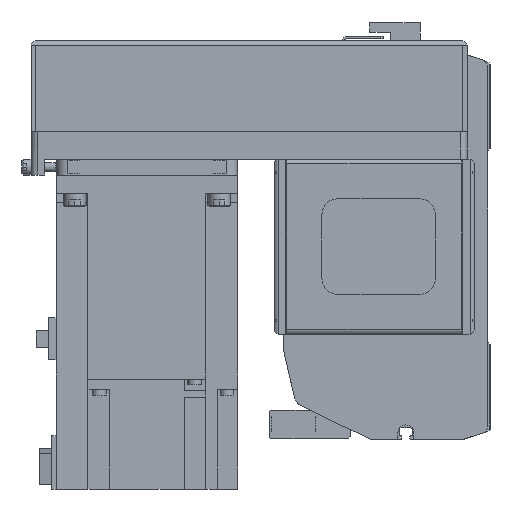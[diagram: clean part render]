
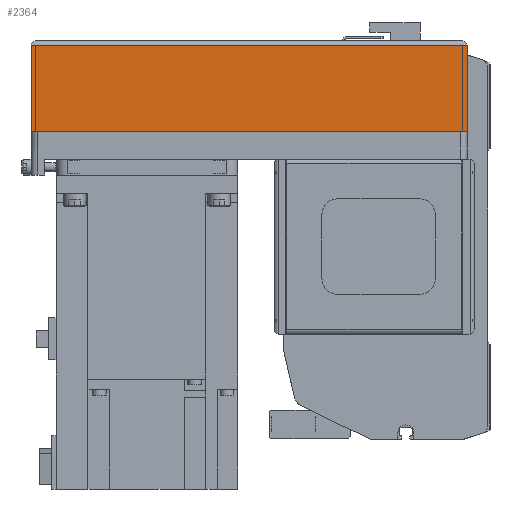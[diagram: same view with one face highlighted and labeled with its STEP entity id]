
A CAD part, left-side view. The second image highlights one B-rep face of the part: STEP entity #2364.
In plain terms, the highlighted planar face has unit normal (-1, 0, 0) as drawn and (0, 1, 0) by its records, which use the part's own axes.
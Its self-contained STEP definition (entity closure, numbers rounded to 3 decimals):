
#2364 = ADVANCED_FACE( '', ( #5300 ), #5301, .T. );
#5300 = FACE_OUTER_BOUND( '', #8794, .T. );
#5301 = PLANE( '', #8795 );
#8794 = EDGE_LOOP( '', ( #15343, #15344, #15345, #15346 ) );
#8795 = AXIS2_PLACEMENT_3D( '', #15347, #15348, #15349 );
#15343 = ORIENTED_EDGE( '', *, *, #22277, .F. );
#15344 = ORIENTED_EDGE( '', *, *, #22114, .F. );
#15345 = ORIENTED_EDGE( '', *, *, #20688, .T. );
#15346 = ORIENTED_EDGE( '', *, *, #19896, .T. );
#15347 = CARTESIAN_POINT( '', ( -192., 40., -50. ) );
#15348 = DIRECTION( '', ( 0., 1., 0. ) );
#15349 = DIRECTION( '', ( 0., 0., 1. ) );
#19896 = EDGE_CURVE( '', #23661, #23659, #23662, .T. );
#20688 = EDGE_CURVE( '', #25034, #23661, #25038, .T. );
#22114 = EDGE_CURVE( '', #25034, #27232, #27233, .T. );
#22277 = EDGE_CURVE( '', #27232, #23659, #27461, .T. );
#23659 = VERTEX_POINT( '', #29172 );
#23661 = VERTEX_POINT( '', #29175 );
#23662 = LINE( '', #29176, #29177 );
#25034 = VERTEX_POINT( '', #31222 );
#25038 = LINE( '', #31228, #31229 );
#27232 = VERTEX_POINT( '', #34604 );
#27233 = LINE( '', #34605, #34606 );
#27461 = LINE( '', #34922, #34923 );
#29172 = CARTESIAN_POINT( '', ( 0., 40., -12.1 ) );
#29175 = CARTESIAN_POINT( '', ( -192., 40., -12.1 ) );
#29176 = CARTESIAN_POINT( '', ( -192., 40., -12.1 ) );
#29177 = VECTOR( '', #37167, 1000. );
#31222 = CARTESIAN_POINT( '', ( -192., 40., -50. ) );
#31228 = CARTESIAN_POINT( '', ( -192., 40., -50. ) );
#31229 = VECTOR( '', #38162, 1000. );
#34604 = CARTESIAN_POINT( '', ( 0., 40., -50. ) );
#34605 = CARTESIAN_POINT( '', ( -192., 40., -50. ) );
#34606 = VECTOR( '', #39908, 1000. );
#34922 = CARTESIAN_POINT( '', ( 0., 40., -50. ) );
#34923 = VECTOR( '', #40105, 1000. );
#37167 = DIRECTION( '', ( 1., 0., 0. ) );
#38162 = DIRECTION( '', ( 0., 0., 1. ) );
#39908 = DIRECTION( '', ( 1., 0., 0. ) );
#40105 = DIRECTION( '', ( 0., 0., 1. ) );
